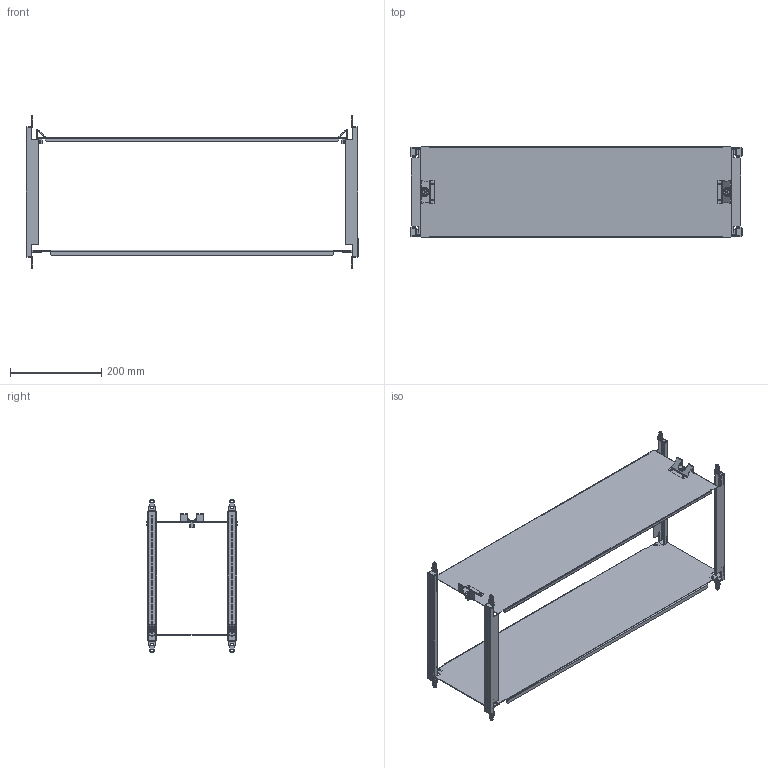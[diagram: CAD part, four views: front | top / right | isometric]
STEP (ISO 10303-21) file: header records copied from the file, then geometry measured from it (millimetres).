
FILE_DESCRIPTION(('CAx-IF Rec.Pracs.---Model Styling and Organization---1.2---2011-12-15','CAx-IF Rec.Pracs.---Geometric and Assembly Validation Properties---4.1---2014-06-16','CAx-IF Rec.Pracs.---PMI Polyline Presentation---2.0---2013-05-24'),'2;1');
FILE_NAME('R5PKIB0820.stp','2021-05-05T13:51:54+03:00',(''),(''),'STEP Interface 4.4 by CT CoreTechnologie','3D_Evolution4.4 by CT CoreTechnologie','');
FILE_SCHEMA(('AUTOMOTIVE_DESIGN { 1 0 10303 214 1 1 1 1 }'));
Length unit declared in the file: millimetre
Products named in the file (12): R5PKIB0820; 294-9118.00-00050(1); RB.0376.00.00.0_-00; 294-9118.00-00050(2); RB.0516.00.00.0 ÑÁ_-05; RB.0392.00.02.0_ª«¨­ç(1); RB.0392.00.02.0_ª«¨­ç(2); RB.0516.00.01.0_-05; RB.0348.00.00.0_-00; 294-9118.00-00050(3); RB.0586.00.00.0_-03; RB.0329.00.00.0_-00
Assembly tree (19 placements, depth 3):
  R5PKIB0820
    294-9118.00-00050(1)
      RB.0376.00.00.0_-00
      294-9118.00-00050(2)
    RB.0516.00.00.0 ÑÁ_-05
      RB.0392.00.02.0_ª«¨­ç(1)
      RB.0392.00.02.0_ª«¨­ç(2)
      RB.0516.00.01.0_-05
    RB.0348.00.00.0_-00  x4
    294-9118.00-00050(3)
      294-9118.00-00050(2)
      RB.0376.00.00.0_-00
    RB.0586.00.00.0_-03
    RB.0329.00.00.0_-00  x4
Bounding box: 726 x 198 x 335 mm (x, y, z)
Surface area: 734597.3 mm2 (no closed solid volume)
Topology: 0 solids, 48 shells, 1092 faces, 2886 edges, 1888 vertices
Faces by surface type: plane 534, cylinder 526, bspline 32
Entity records: 15430 total; most frequent: CARTESIAN_POINT 2785, DIRECTION 2517, ORIENTED_EDGE 2446, EDGE_CURVE 1223, VECTOR 865, LINE 865, AXIS2_PLACEMENT_3D 826, VERTEX_POINT 802
